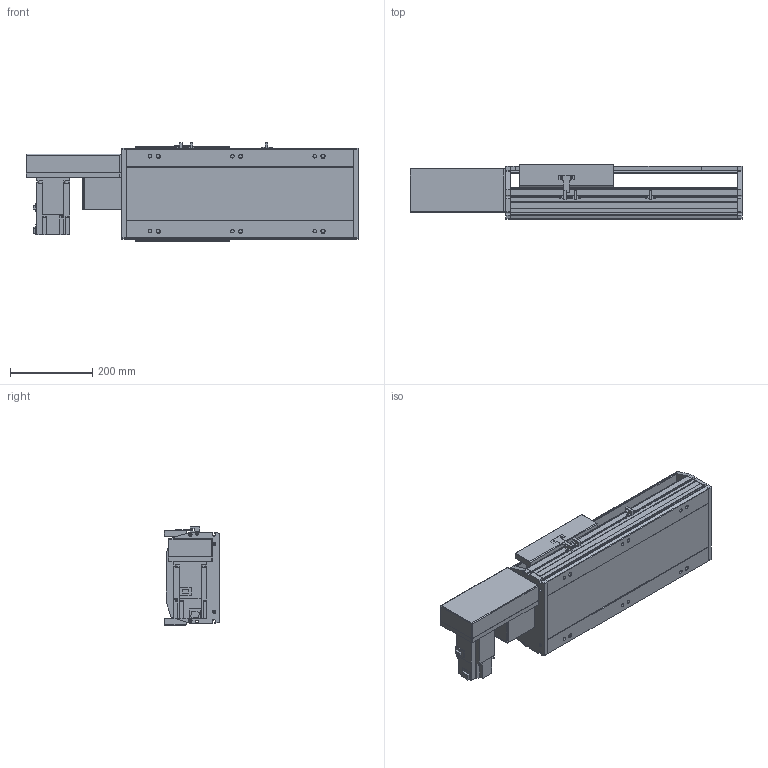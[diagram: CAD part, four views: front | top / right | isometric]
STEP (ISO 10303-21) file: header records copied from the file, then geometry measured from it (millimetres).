
FILE_DESCRIPTION(/* description */ ('STEP AP214'),/* implementation_level */ '2;1');
FILE_NAME(/* name */ 'PBS220-P40-S200-R-T75-C1-N(0)',/* time_stamp */ '2022-06-11T09:59:35+02:00',/* author */ ('License CC BY-ND 4.0'),/* organization */ ('CADENAS'),/* preprocessor_version */ 'ST-DEVELOPER v18.102',/* originating_system */ 'PARTsolutions',/* authorisation */ ' ');
FILE_SCHEMA (('AUTOMOTIVE_DESIGN {1 0 10303 214 3 1 1}'));
Length unit declared in the file: millimetre
Products named in the file (7): PBS220-P40-S200-R-T75-C1-N(0); PBS220_sensor; PBS220_plant; PBS220_sliser; T75-p1; PBS220T-R_motors; PBS220-S200()_body
Assembly tree (8 placements, depth 2):
  PBS220-P40-S200-R-T75-C1-N(0)
    PBS220_sensor  x3
    PBS220_plant
    PBS220_sliser
    T75-p1
    PBS220T-R_motors
    PBS220-S200()_body
Bounding box: 806 x 134 x 238.5 mm (x, y, z)
Volume: 10688827.6 mm3; surface area: 1181747.1 mm2
Topology: 8 solids, 8 shells, 854 faces, 2256 edges, 1468 vertices
Faces by surface type: plane 578, cylinder 246, cone 30
Full cylindrical faces by diameter (mm): 2.013 x4, 4.5 x14, 4.917 x4, 6 x7, 6.647 x8, 8 x10, 8.376 x6, 8.5 x6, 10 x6, 14 x6, 38 x2, 40 x1, 70 x1
Entity records: 24069 total; most frequent: DIRECTION 4185, CARTESIAN_POINT 4162, ORIENTED_EDGE 3926, EDGE_CURVE 1963, AXIS2_PLACEMENT_3D 1425, VERTEX_POINT 1336, LINE 1335, VECTOR 1335
